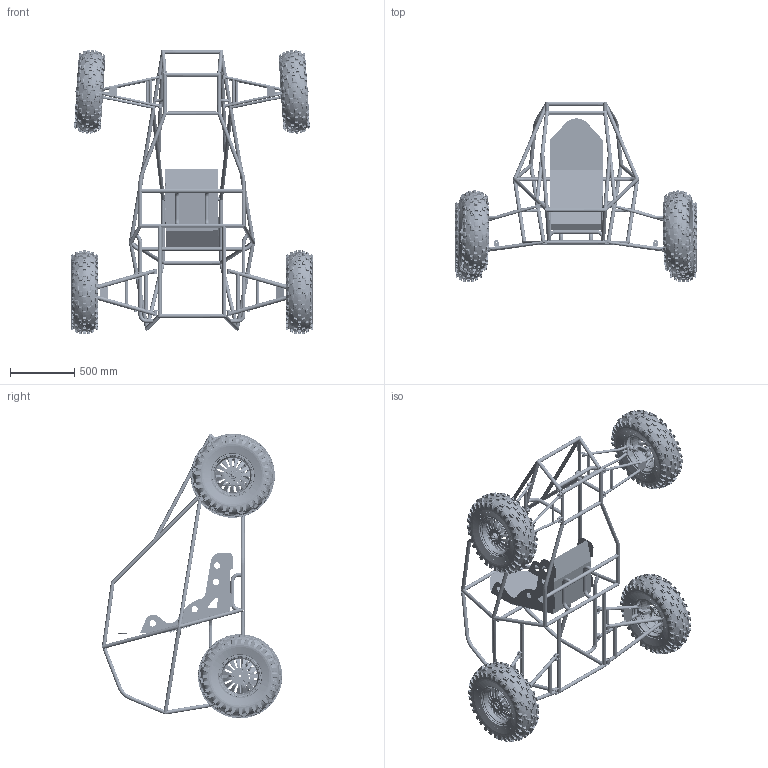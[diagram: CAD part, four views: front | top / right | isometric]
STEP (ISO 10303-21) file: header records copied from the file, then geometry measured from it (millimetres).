
FILE_DESCRIPTION (( 'STEP AP203' ), '1' );
FILE_NAME ('Ñáîðêà ðàìà ñ ïîäâåñêîé.STEP', '2011-05-05T12:05:11', ( 'www.PHILka.RU' ), ( 'WareZ Provider ' ), 'SwSTEP 2.0', 'SolidWorks 2009', '' );
FILE_SCHEMA (( 'CONFIG_CONTROL_DESIGN' ));
Products named in the file (33): Çåðêàëüíî 2Ïîâîðîòíûé êóëàê ÂÀÇ 2108; Çåðêàëüíî 2êðîíøòåéí íèæíåãî çàäíåãî ðû÷àãà_Ïî óìîë÷àíèþ<Êàê îáðàáîòàííûé >; Çåðêàëüíî 2Êóëàê êëàññèêà_Ïî óìîë÷àíèþ<Êàê îáðàáîòàííûé >; Äèñê ÎÊÀ 4-12 3õ98 ÅÒ38; Çåðêàëüíî 2êîðïóñ ðóëåâîãî_Ïî óìîë÷àíèþ<Êàê îáðàáîòàííûé >; Ñáîðêà ðàìà ñ ïîäâåñêîé; Ðàìà_Ïî óìîë÷àíèþ<Êàê îáðàáîòàííûé >; Íèæíèé çàäíèé ðû÷àã _Ïî óìîë÷àíèþ<Êàê îáðàáîòàííûé >; Âåðõíèé çàäíèé ðû÷àã_Ïî óìîë÷àíèþ<Êàê îáðàáîòàííûé >; Óõî ïîäâåñêè; Ïîâîðîòíûé êóëàê ÂÀÇ 2108; Êâàäðîïîêðûøêà íà äèñêå ÎÊÀ; Ñèäåíüå; Êóëàê êëàññèêà_Ïî óìîë÷àíèþ<Êàê îáðàáîòàííûé >; êîðïóñ ðóëåâîãî_Ïî óìîë÷àíèþ<Êàê îáðàáîòàííûé >; Çåðêàëüíî 2Ïåðåäíèé íèæíèé ðû÷àã_Ïî óìîë÷àíèþ<Êàê îáðàáîòàííûé >; Çåðêàëüíî 2Íèæíèé çàäíèé ðû÷àã _Ïî óìîë÷àíèþ<Êàê îáðàáîòàííûé >; Çåðêàëüíî 2Âåðõíèé çàäíèé ðû÷àã_Ïî óìîë÷àíèþ<Êàê îáðàáîòàííûé >; Çåðêàëüíî 2Óõî ïîäâåñêè; Çåðêàëüíî 2ïåðåäíÿÿ ñòóïèöà 2109; Çåðêàëüíî 2ïåðåäíèé âåðõíèé ðû÷àã_Ïî óìîë÷àíèþ<Êàê îáðàáîòàííûé >; Çåðêàëüíî 2Êâàäðîïîêðûøêà íà äèñêå ÎÊÀ; 12 x 6 Inch 项牮赅; Çåðêàëüíî 2ñòóïèöà êëàññèêà; Çåðêàëüíî êîðïóñ øàðîâîé 2108; Çåðêàëüíî 2Ïàëåö øàðîâîé êëàññèêà; êðîíøòåéí íèæíåãî çàäíåãî ðû÷àãà_Ïî óìîë÷àíèþ<Êàê îáðàáîòàííûé >; ïåðåäíÿÿ ñòóïèöà 2109; ïåðåäíèé âåðõíèé ðû÷àã_Ïî óìîë÷àíèþ<Êàê îáðàáîòàííûé >; Ïåðåäíèé íèæíèé ðû÷àã_Ïî óìîë÷àíèþ<Êàê îáðàáîòàííûé >; ñòóïèöà êëàññèêà; êîðïóñ øàðîâîé 2108; Ïàëåö øàðîâîé êëàññèêà
Assembly tree (62 placements, depth 3):
  Ñáîðêà ðàìà ñ ïîäâåñêîé
    Çåðêàëüíî 2Ïàëåö øàðîâîé êëàññèêà  x2
    Çåðêàëüíî 2Óõî ïîäâåñêè  x13
    Çåðêàëüíî 2Ïîâîðîòíûé êóëàê ÂÀÇ 2108
    Âåðõíèé çàäíèé ðû÷àã_Ïî óìîë÷àíèþ<Êàê îáðàáîòàííûé >
    Óõî ïîäâåñêè  x13
    Êóëàê êëàññèêà_Ïî óìîë÷àíèþ<Êàê îáðàáîòàííûé >
    Çåðêàëüíî 2êîðïóñ ðóëåâîãî_Ïî óìîë÷àíèþ<Êàê îáðàáîòàííûé >
    Çåðêàëüíî 2Íèæíèé çàäíèé ðû÷àã _Ïî óìîë÷àíèþ<Êàê îáðàáîòàííûé >
    Ïåðåäíèé íèæíèé ðû÷àã_Ïî óìîë÷àíèþ<Êàê îáðàáîòàííûé >
    Íèæíèé çàäíèé ðû÷àã _Ïî óìîë÷àíèþ<Êàê îáðàáîòàííûé >
    ïåðåäíèé âåðõíèé ðû÷àã_Ïî óìîë÷àíèþ<Êàê îáðàáîòàííûé >
    Çåðêàëüíî 2Ïåðåäíèé íèæíèé ðû÷àã_Ïî óìîë÷àíèþ<Êàê îáðàáîòàííûé >
    Çåðêàëüíî 2Âåðõíèé çàäíèé ðû÷àã_Ïî óìîë÷àíèþ<Êàê îáðàáîòàííûé >
    Ðàìà_Ïî óìîë÷àíèþ<Êàê îáðàáîòàííûé >
    Çåðêàëüíî 2Êâàäðîïîêðûøêà íà äèñêå ÎÊÀ  x2
      12 x 6 Inch 项牮赅
      Äèñê ÎÊÀ 4-12 3õ98 ÅÒ38
    Ïîâîðîòíûé êóëàê ÂÀÇ 2108
    Êâàäðîïîêðûøêà íà äèñêå ÎÊÀ  x2
      Äèñê ÎÊÀ 4-12 3õ98 ÅÒ38
      12 x 6 Inch 项牮赅
    Çåðêàëüíî 2ïåðåäíÿÿ ñòóïèöà 2109
    Çåðêàëüíî 2Êóëàê êëàññèêà_Ïî óìîë÷àíèþ<Êàê îáðàáîòàííûé >
    Çåðêàëüíî 2ñòóïèöà êëàññèêà
    êîðïóñ ðóëåâîãî_Ïî óìîë÷àíèþ<Êàê îáðàáîòàííûé >
    Ïàëåö øàðîâîé êëàññèêà  x2
    êðîíøòåéí íèæíåãî çàäíåãî ðû÷àãà_Ïî óìîë÷àíèþ<Êàê îáðàáîòàííûé >
    ïåðåäíÿÿ ñòóïèöà 2109
    ñòóïèöà êëàññèêà
    Çåðêàëüíî 2ïåðåäíèé âåðõíèé ðû÷àã_Ïî óìîë÷àíèþ<Êàê îáðàáîòàííûé >
    Ñèäåíüå
    êîðïóñ øàðîâîé 2108
    Çåðêàëüíî 2êðîíøòåéí íèæíåãî çàäíåãî ðû÷àãà_Ïî óìîë÷àíèþ<Êàê îáðàáîòàííûé >
    Çåðêàëüíî êîðïóñ øàðîâîé 2108
Bounding box: 1870.76 x 1397.53 x 2205.97 mm (x, y, z)
Volume: 39815590.2 mm3; surface area: 16823443.9 mm2
Topology: 355 solids, 355 shells, 17426 faces, 45705 edges, 30233 vertices
Faces by surface type: plane 8871, bspline 5292, cylinder 1949, torus 642, cone 640, sphere 32
Entity records: 326437 total; most frequent: CARTESIAN_POINT 186965, ORIENTED_EDGE 32564, DIRECTION 20779, EDGE_CURVE 16282, VERTEX_POINT 10834, AXIS2_PLACEMENT_3D 7859, EDGE_LOOP 7306, B_SPLINE_CURVE_WITH_KNOTS 6759
